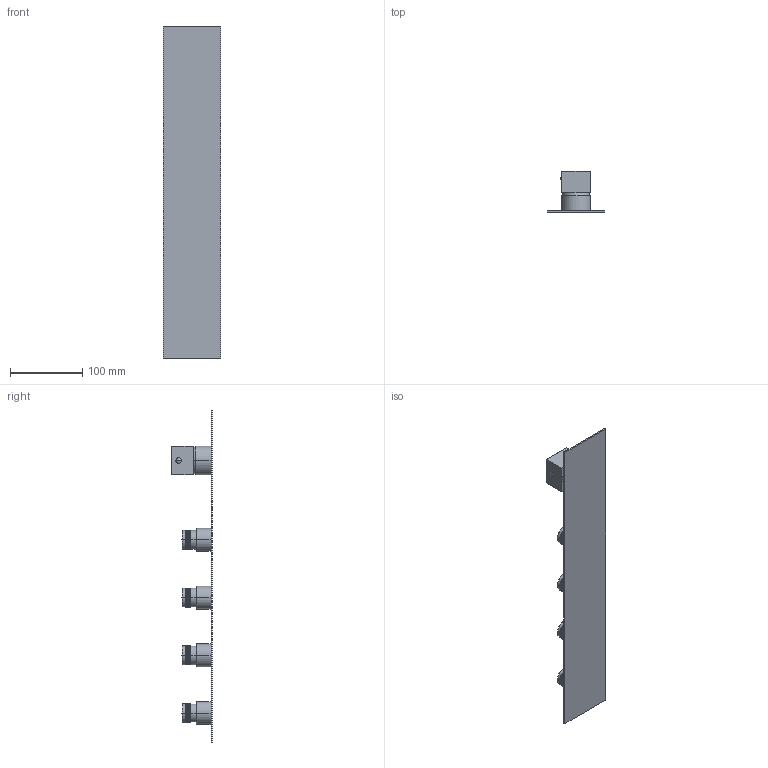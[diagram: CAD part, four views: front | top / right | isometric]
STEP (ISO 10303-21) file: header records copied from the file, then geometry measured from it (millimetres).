
FILE_DESCRIPTION((''),'2;1');
FILE_NAME('35000V4_SW0001','2026-03-05T11:52:35',('carloff'),(''),'CREO PARAMETRIC BY PTC INC, 2022014','CREO PARAMETRIC BY PTC INC, 2022014','');
FILE_SCHEMA(('CONFIG_CONTROL_DESIGN'));
Products named in the file (1): 35000V4_SW0001
Bounding box: 80 x 56.7 x 460 mm (x, y, z)
Volume: 257986.7 mm3; surface area: 99880.6 mm2
Topology: 1 solids, 1 shells, 6795 faces, 16502 edges, 10827 vertices
Faces by surface type: bspline 5122, cylinder 1386, plane 257, torus 16, sphere 14
Entity records: 281748 total; most frequent: CARTESIAN_POINT 157548, ORIENTED_EDGE 32984, EDGE_CURVE 16492, VERTEX_POINT 10827, B_SPLINE_CURVE_WITH_KNOTS 10384, DIRECTION 10144, EDGE_LOOP 7923, FACE_OUTER_BOUND 6795
